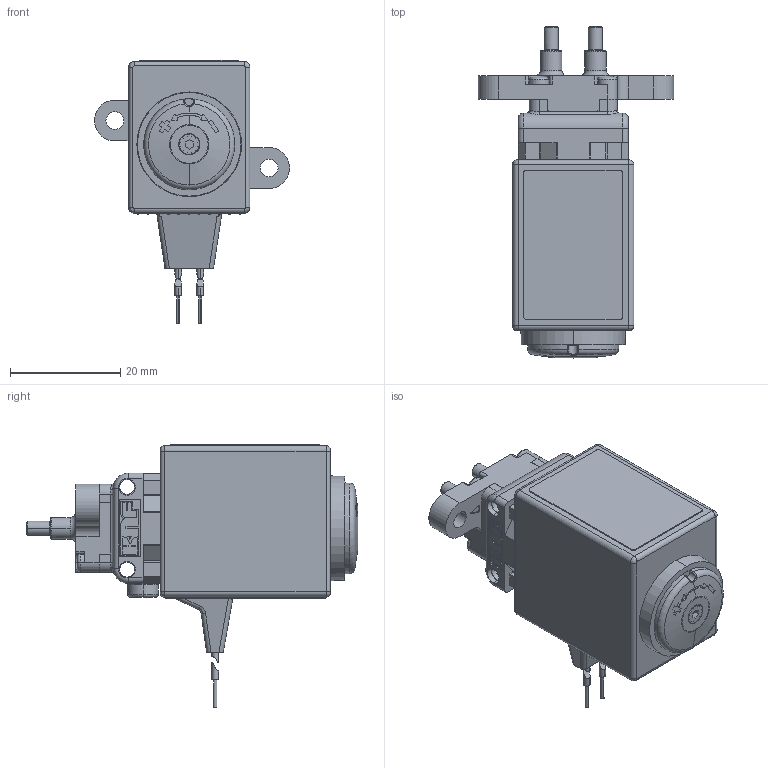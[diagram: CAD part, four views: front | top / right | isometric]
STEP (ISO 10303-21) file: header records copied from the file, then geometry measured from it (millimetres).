
FILE_DESCRIPTION((''),'2;1');
FILE_NAME('FMM20_DC-P_3-8-02376-01','2016-07-15T',('LuternauerR'),(''),'PRO/ENGINEER BY PARAMETRIC TECHNOLOGY CORPORATION, 2015200','PRO/ENGINEER BY PARAMETRIC TECHNOLOGY CORPORATION, 2015200','');
FILE_SCHEMA(('CONFIG_CONTROL_DESIGN'));
Length unit declared in the file: millimetre
Products named in the file (1): FMM20_DC-P_3-8-02376-01
Bounding box: 35.4 x 60.2 x 47.7 mm (x, y, z)
Volume: 25695.8 mm3; surface area: 7398.7 mm2
Topology: 3 solids, 3 shells, 1026 faces, 2607 edges, 1640 vertices
Faces by surface type: plane 437, cylinder 403, torus 82, bspline 69, cone 31, extrusion 4
Entity records: 37796 total; most frequent: CARTESIAN_POINT 12958, DIRECTION 5224, ORIENTED_EDGE 5214, EDGE_CURVE 2607, AXIS2_PLACEMENT_3D 1889, VERTEX_POINT 1640, VECTOR 1446, LINE 1442
